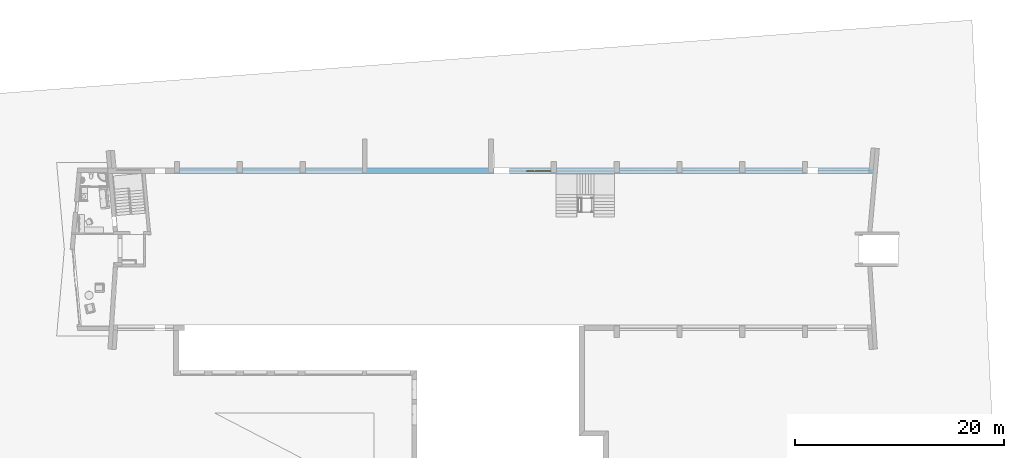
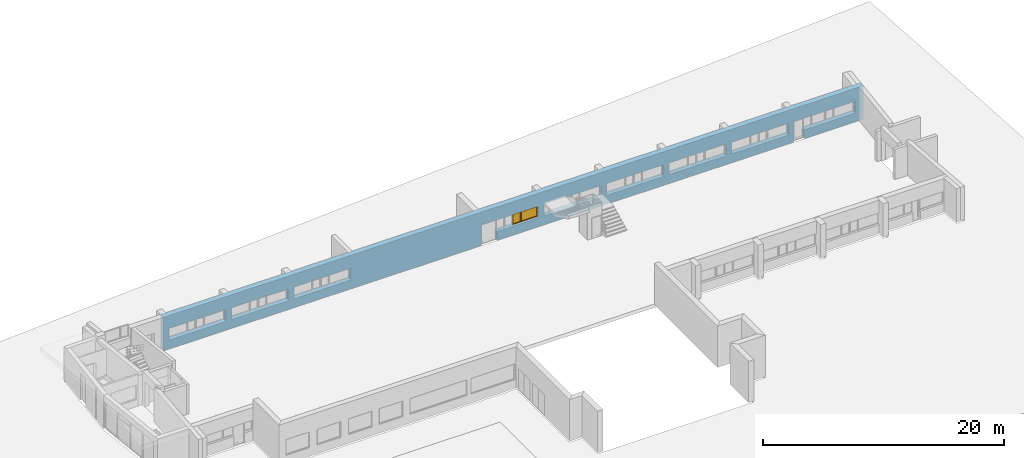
# One storey, part 19 of 36: 1 window, 20 openings, plus 1 element that does not belong to this part.
"""IFC2X3 building model written with IfcOpenShell, lengths in millimetres."""

from ifc_helpers import new_model, entity, si_unit, converted_unit, money_unit, direction, frame, origin_with_axes, place, context, subcontext, project, spatial, polyline, outline, extrude, open_shell, faceted_brep, surface_model, material, material_list, layer, layer_set, layer_usage, type_object, element, fill, save


model = new_model("IFC2X3")

# Units and contexts
model_context = context("Model", 3, precision=1e-05, world=origin_with_axes(), true_north=direction((0.0, 1.0)))
body_context = subcontext(model_context, "Body", "Model", "MODEL_VIEW")
ifc_project = project(units=[si_unit("LENGTHUNIT", "METRE", prefix="MILLI"), si_unit("AREAUNIT", "SQUARE_METRE"), si_unit("VOLUMEUNIT", "CUBIC_METRE"), converted_unit("PLANEANGLEUNIT", "DEGREE", entity("IfcPlaneAngleMeasure", 0.0174532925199), si_unit("PLANEANGLEUNIT", "RADIAN"), dimensions=[0, 0, 0, 0, 0, 0, 0]), si_unit("SOLIDANGLEUNIT", "STERADIAN"), money_unit("USD"), converted_unit("TIMEUNIT", "Year", entity("IfcTimeMeasure", 31556926.0), si_unit("TIMEUNIT", "SECOND"), dimensions=[0, 0, 0, 0, 0, 0, 0]), si_unit("MASSUNIT", "GRAM"), si_unit("THERMODYNAMICTEMPERATUREUNIT", "DEGREE_CELSIUS"), si_unit("LUMINOUSINTENSITYUNIT", "LUMEN")], contexts=[model_context])

# Site, building, storey
site_placement = place(None, origin_with_axes())
site = spatial("IfcSite", under=ifc_project, at=site_placement, Name="Site", CompositionType="ELEMENT")
building_placement = place(site_placement, origin_with_axes())
building = spatial("IfcBuilding", under=site, at=building_placement, Name="Building", CompositionType="ELEMENT")
storey_placement = place(building_placement, frame((0.0, 0.0, -3400.0), z_axis=(0.0, 0.0, 1.0), x_axis=(1.0, 0.0, 0.0)))
storey = spatial("IfcBuildingStorey", under=building, at=storey_placement, Name="1KORRUS", CompositionType="ELEMENT", Elevation=-3400.0)

# Wall, openings, window
ifc_material_1 = material(Name="Olemasolevad seinad tellis, uus viimistlus")
ifc_layer = layer(ifc_material_1, 500.0, ventilated="UNKNOWN")
ifc_layer_set = layer_set([ifc_layer], Name="Olemasolevad seinad tellis, uus viimistlus 500")
ifc_layer_usage = layer_usage(ifc_layer_set, "AXIS2", "POSITIVE", -100.0)
wall_type = type_object("IfcWallType", Name="Olemasolevad seinad tellis, uus viimistlus 500", PredefinedType="NOTDEFINED")
wall_placement = place(storey_placement, frame((-48393.8274049, -5039.6041088, 0.0), z_axis=(0.0, 0.0, 1.0), x_axis=(1.0, 0.0, 0.0)))
wall = element("IfcWallStandardCase", 1, at=wall_placement, inside=storey, type_object=wall_type, material=ifc_layer_usage, Name="VS1", ObjectType="VS1", context=body_context, shape_type="SweptSolid", body=[
    extrude(outline(polyline([(0.0, -100.0), (67149.8194303, -100.0), (67149.8194303, 400.0), (0.0, 400.0), (0.0, -100.0)])), origin_with_axes(), (0.0, 0.0, 1.0), 3400.0),
])
opening_1_placement = place(wall_placement, frame((1878.53070154, 0.0, 900.0), z_axis=(0.0, 0.0, 1.0), x_axis=(1.0, 0.0, 0.0)))
element("IfcOpeningElement", 2, at=opening_1_placement, cuts=wall, Name="Olemasolevad aknad jäävad", context=body_context, shape_type="SweptSolid", body=[
    extrude(outline(polyline([(-1375.0, 1200.0), (-1375.0, 0.0), (1375.0, 0.0), (1375.0, 1200.0), (-1375.0, 1200.0)])), frame((0.0, 250.0, 0.0), z_axis=(0.0, -1.0, 0.0), x_axis=(1.0, 0.0, 0.0)), (0.0, 0.0, 1.0), 850.0),
    extrude(outline(polyline([(-1375.0, 0.0), (-1375.0, -1200.0), (1375.0, -1200.0), (1375.0, 0.0), (-1375.0, 0.0)])), frame((0.0, 250.0, 0.0), z_axis=(0.0, 1.0, 0.0), x_axis=(1.0, 0.0, 0.0)), (0.0, 0.0, 1.0), 650.0),
])
opening_2_placement = place(wall_placement, frame((7878.53070154, 0.0, 900.0), z_axis=(0.0, 0.0, 1.0), x_axis=(1.0, 0.0, 0.0)))
element("IfcOpeningElement", 3, at=opening_2_placement, cuts=wall, Name="Olemasolevad aknad jäävad", context=body_context, shape_type="SweptSolid", body=[
    extrude(outline(polyline([(-1375.0, 1200.0), (-1375.0, 0.0), (1375.0, 0.0), (1375.0, 1200.0), (-1375.0, 1200.0)])), frame((0.0, 250.0, 0.0), z_axis=(0.0, -1.0, 0.0), x_axis=(1.0, 0.0, 0.0)), (0.0, 0.0, 1.0), 850.0),
    extrude(outline(polyline([(-1375.0, 0.0), (-1375.0, -1200.0), (1375.0, -1200.0), (1375.0, 0.0), (-1375.0, 0.0)])), frame((0.0, 250.0, 0.0), z_axis=(0.0, 1.0, 0.0), x_axis=(1.0, 0.0, 0.0)), (0.0, 0.0, 1.0), 650.0),
])
opening_3_placement = place(wall_placement, frame((13878.5307015, 0.0, 900.0), z_axis=(0.0, 0.0, 1.0), x_axis=(1.0, 0.0, 0.0)))
element("IfcOpeningElement", 4, at=opening_3_placement, cuts=wall, Name="Olemasolevad aknad jäävad", context=body_context, shape_type="SweptSolid", body=[
    extrude(outline(polyline([(-1375.0, 1200.0), (-1375.0, 0.0), (1375.0, 0.0), (1375.0, 1200.0), (-1375.0, 1200.0)])), frame((0.0, 250.0, 0.0), z_axis=(0.0, -1.0, 0.0), x_axis=(1.0, 0.0, 0.0)), (0.0, 0.0, 1.0), 850.0),
    extrude(outline(polyline([(-1375.0, 0.0), (-1375.0, -1200.0), (1375.0, -1200.0), (1375.0, 0.0), (-1375.0, 0.0)])), frame((0.0, 250.0, 0.0), z_axis=(0.0, 1.0, 0.0), x_axis=(1.0, 0.0, 0.0)), (0.0, 0.0, 1.0), 650.0),
])
opening_4_placement = place(wall_placement, frame((4628.53070154, 0.0, 900.0), z_axis=(0.0, 0.0, 1.0), x_axis=(1.0, 0.0, 0.0)))
element("IfcOpeningElement", 5, at=opening_4_placement, cuts=wall, Name="Olemasolevad aknad jäävad", context=body_context, shape_type="SweptSolid", body=[
    extrude(outline(polyline([(1375.0, 1200.0), (-1375.0, 1200.0), (-1375.0, 0.0), (1375.0, 0.0), (1375.0, 1200.0)])), frame((0.0, 250.0, 0.0), z_axis=(0.0, -1.0, 0.0), x_axis=(1.0, 0.0, 0.0)), (0.0, 0.0, 1.0), 850.0),
    extrude(outline(polyline([(1375.0, 0.0), (-1375.0, 0.0), (-1375.0, -1200.0), (1375.0, -1200.0), (1375.0, 0.0)])), frame((0.0, 250.0, 0.0), z_axis=(0.0, 1.0, 0.0), x_axis=(1.0, 0.0, 0.0)), (0.0, 0.0, 1.0), 650.0),
])
opening_5_placement = place(wall_placement, frame((10628.5307015, 0.0, 900.0), z_axis=(0.0, 0.0, 1.0), x_axis=(1.0, 0.0, 0.0)))
element("IfcOpeningElement", 6, at=opening_5_placement, cuts=wall, Name="Olemasolevad aknad jäävad", context=body_context, shape_type="SweptSolid", body=[
    extrude(outline(polyline([(1375.0, 1200.0), (-1375.0, 1200.0), (-1375.0, 0.0), (1375.0, 0.0), (1375.0, 1200.0)])), frame((0.0, 250.0, 0.0), z_axis=(0.0, -1.0, 0.0), x_axis=(1.0, 0.0, 0.0)), (0.0, 0.0, 1.0), 850.0),
    extrude(outline(polyline([(1375.0, 0.0), (-1375.0, 0.0), (-1375.0, -1200.0), (1375.0, -1200.0), (1375.0, 0.0)])), frame((0.0, 250.0, 0.0), z_axis=(0.0, 1.0, 0.0), x_axis=(1.0, 0.0, 0.0)), (0.0, 0.0, 1.0), 650.0),
])
opening_6_placement = place(wall_placement, frame((16616.9651775, 0.0, 900.0), z_axis=(0.0, 0.0, 1.0), x_axis=(1.0, 0.0, 0.0)))
element("IfcOpeningElement", 7, at=opening_6_placement, cuts=wall, Name="Olemasolevad aknad jäävad", context=body_context, shape_type="SweptSolid", body=[
    extrude(outline(polyline([(1375.0, 1200.0), (-1375.0, 1200.0), (-1375.0, 0.0), (1375.0, 0.0), (1375.0, 1200.0)])), frame((0.0, 250.0, 0.0), z_axis=(0.0, -1.0, 0.0), x_axis=(1.0, 0.0, 0.0)), (0.0, 0.0, 1.0), 850.0),
    extrude(outline(polyline([(1375.0, 0.0), (-1375.0, 0.0), (-1375.0, -1200.0), (1375.0, -1200.0), (1375.0, 0.0)])), frame((0.0, 250.0, 0.0), z_axis=(0.0, 1.0, 0.0), x_axis=(1.0, 0.0, 0.0)), (0.0, 0.0, 1.0), 650.0),
])
opening_7_placement = place(wall_placement, frame((34803.5307015, 0.0, 900.0), z_axis=(0.0, 0.0, 1.0), x_axis=(1.0, 0.0, 0.0)))
opening_7 = element("IfcOpeningElement", 8, at=opening_7_placement, cuts=wall, Name="Olemasolevad aknad jäävad", context=body_context, shape_type="SweptSolid", body=[
    extrude(outline(polyline([(1200.0, 0.0), (-1200.0, 0.0), (-1200.0, -1200.0), (1200.0, -1200.0), (1200.0, 0.0)])), frame((0.0, 100.0, 0.0), z_axis=(0.0, 1.0, 0.0), x_axis=(1.0, 0.0, 0.0)), (0.0, 0.0, 1.0), 800.0),
    extrude(outline(polyline([(1200.0, 1200.0), (-1200.0, 1200.0), (-1200.0, 0.0), (1200.0, 0.0), (1200.0, 1200.0)])), frame((0.0, 100.0, 0.0), z_axis=(0.0, -1.0, 0.0), x_axis=(1.0, 0.0, 0.0)), (0.0, 0.0, 1.0), 700.0),
])
opening_8_placement = place(wall_placement, frame((40625.1633636, 0.0, 900.0), z_axis=(0.0, 0.0, 1.0), x_axis=(1.0, 0.0, 0.0)))
element("IfcOpeningElement", 9, at=opening_8_placement, cuts=wall, Name="Olemasolevad aknad jäävad", context=body_context, shape_type="SweptSolid", body=[
    extrude(outline(polyline([(1400.0, 0.0), (-1400.0, 0.0), (-1400.0, -1200.0), (1400.0, -1200.0), (1400.0, 0.0)])), frame((0.0, 100.0, 0.0), z_axis=(0.0, 1.0, 0.0), x_axis=(1.0, 0.0, 0.0)), (0.0, 0.0, 1.0), 800.0),
    extrude(outline(polyline([(1400.0, 1200.0), (-1400.0, 1200.0), (-1400.0, 0.0), (1400.0, 0.0), (1400.0, 1200.0)])), frame((0.0, 100.0, 0.0), z_axis=(0.0, -1.0, 0.0), x_axis=(1.0, 0.0, 0.0)), (0.0, 0.0, 1.0), 700.0),
])
opening_9_placement = place(wall_placement, frame((37871.3218818, 0.0, 900.0), z_axis=(0.0, 0.0, 1.0), x_axis=(1.0, 0.0, 0.0)))
element("IfcOpeningElement", 10, at=opening_9_placement, cuts=wall, Name="Olemasolevad aknad jäävad", context=body_context, shape_type="SweptSolid", body=[
    extrude(outline(polyline([(-1367.791, 0.0), (-1367.791, -1200.0), (1367.791, -1200.0), (1367.791, 0.0), (-1367.791, 0.0)])), frame((0.0, 150.0, 0.0), z_axis=(0.0, 1.0, 0.0), x_axis=(1.0, 0.0, 0.0)), (0.0, 0.0, 1.0), 750.0),
    extrude(outline(polyline([(-1367.791, 1200.0), (-1367.791, 0.0), (1367.791, 0.0), (1367.791, 1200.0), (-1367.791, 1200.0)])), frame((0.0, 150.0, 0.0), z_axis=(0.0, -1.0, 0.0), x_axis=(1.0, 0.0, 0.0)), (0.0, 0.0, 1.0), 750.0),
])
opening_10_placement = place(wall_placement, frame((46628.5307015, 0.0, 900.0), z_axis=(0.0, 0.0, 1.0), x_axis=(1.0, 0.0, 0.0)))
element("IfcOpeningElement", 11, at=opening_10_placement, cuts=wall, Name="Olemasolevad aknad jäävad", context=body_context, shape_type="SweptSolid", body=[
    extrude(outline(polyline([(1375.0, 1200.0), (-1375.0, 1200.0), (-1375.0, 0.0), (1375.0, 0.0), (1375.0, 1200.0)])), frame((0.0, 150.0, 0.0), z_axis=(0.0, -1.0, 0.0), x_axis=(1.0, 0.0, 0.0)), (0.0, 0.0, 1.0), 750.0),
    extrude(outline(polyline([(1375.0, 0.0), (-1375.0, 0.0), (-1375.0, -1200.0), (1375.0, -1200.0), (1375.0, 0.0)])), frame((0.0, 150.0, 0.0), z_axis=(0.0, 1.0, 0.0), x_axis=(1.0, 0.0, 0.0)), (0.0, 0.0, 1.0), 750.0),
])
opening_11_placement = place(wall_placement, frame((43878.5307015, 0.0, 900.0), z_axis=(0.0, 0.0, 1.0), x_axis=(1.0, 0.0, 0.0)))
element("IfcOpeningElement", 12, at=opening_11_placement, cuts=wall, Name="Olemasolevad aknad jäävad", context=body_context, shape_type="SweptSolid", body=[
    extrude(outline(polyline([(-1375.0, 1200.0), (-1375.0, 0.0), (1375.0, 0.0), (1375.0, 1200.0), (-1375.0, 1200.0)])), frame((0.0, 200.0, 0.0), z_axis=(0.0, -1.0, 0.0), x_axis=(1.0, 0.0, 0.0)), (0.0, 0.0, 1.0), 800.0),
    extrude(outline(polyline([(-1375.0, 0.0), (-1375.0, -1200.0), (1375.0, -1200.0), (1375.0, 0.0), (-1375.0, 0.0)])), frame((0.0, 200.0, 0.0), z_axis=(0.0, 1.0, 0.0), x_axis=(1.0, 0.0, 0.0)), (0.0, 0.0, 1.0), 700.0),
])
opening_12_placement = place(wall_placement, frame((52635.3834465, 0.0, 900.0), z_axis=(0.0, 0.0, 1.0), x_axis=(1.0, 0.0, 0.0)))
element("IfcOpeningElement", 13, at=opening_12_placement, cuts=wall, Name="Olemasolevad aknad jäävad", context=body_context, shape_type="SweptSolid", body=[
    extrude(outline(polyline([(1376.809, 1200.0), (-1376.809, 1200.0), (-1376.809, 0.0), (1376.809, 0.0), (1376.809, 1200.0)])), frame((0.0, 150.0, 0.0), z_axis=(0.0, -1.0, 0.0), x_axis=(1.0, 0.0, 0.0)), (0.0, 0.0, 1.0), 750.0),
    extrude(outline(polyline([(1376.809, 0.0), (-1376.809, 0.0), (-1376.809, -1200.0), (1376.809, -1200.0), (1376.809, 0.0)])), frame((0.0, 150.0, 0.0), z_axis=(0.0, 1.0, 0.0), x_axis=(1.0, 0.0, 0.0)), (0.0, 0.0, 1.0), 750.0),
])
opening_13_placement = place(wall_placement, frame((49883.9987013, 0.0, 900.0), z_axis=(0.0, 0.0, 1.0), x_axis=(1.0, 0.0, 0.0)))
element("IfcOpeningElement", 14, at=opening_13_placement, cuts=wall, Name="Olemasolevad aknad jäävad", context=body_context, shape_type="SweptSolid", body=[
    extrude(outline(polyline([(-1375.0, 1200.0), (-1375.0, 0.0), (1375.0, 0.0), (1375.0, 1200.0), (-1375.0, 1200.0)])), frame((0.0, 200.0, 0.0), z_axis=(0.0, -1.0, 0.0), x_axis=(1.0, 0.0, 0.0)), (0.0, 0.0, 1.0), 800.0),
    extrude(outline(polyline([(-1375.0, 0.0), (-1375.0, -1200.0), (1375.0, -1200.0), (1375.0, 0.0), (-1375.0, 0.0)])), frame((0.0, 200.0, 0.0), z_axis=(0.0, 1.0, 0.0), x_axis=(1.0, 0.0, 0.0)), (0.0, 0.0, 1.0), 700.0),
])
opening_14_placement = place(wall_placement, frame((58631.8843372, 0.0, 900.0), z_axis=(0.0, 0.0, 1.0), x_axis=(1.0, 0.0, 0.0)))
element("IfcOpeningElement", 15, at=opening_14_placement, cuts=wall, Name="Olemasolevad aknad jäävad", context=body_context, shape_type="SweptSolid", body=[
    extrude(outline(polyline([(1371.646, 1200.0), (-1371.646, 1200.0), (-1371.646, 0.0), (1371.646, 0.0), (1371.646, 1200.0)])), frame((0.0, 150.0, 0.0), z_axis=(0.0, -1.0, 0.0), x_axis=(1.0, 0.0, 0.0)), (0.0, 0.0, 1.0), 750.0),
    extrude(outline(polyline([(1371.646, 0.0), (-1371.646, 0.0), (-1371.646, -1200.0), (1371.646, -1200.0), (1371.646, 0.0)])), frame((0.0, 150.0, 0.0), z_axis=(0.0, 1.0, 0.0), x_axis=(1.0, 0.0, 0.0)), (0.0, 0.0, 1.0), 750.0),
])
opening_15_placement = place(wall_placement, frame((55886.6217615, 0.0, 900.0), z_axis=(0.0, 0.0, 1.0), x_axis=(1.0, 0.0, 0.0)))
element("IfcOpeningElement", 16, at=opening_15_placement, cuts=wall, Name="Olemasolevad aknad jäävad", context=body_context, shape_type="SweptSolid", body=[
    extrude(outline(polyline([(-1375.0, 1200.0), (-1375.0, 0.0), (1375.0, 0.0), (1375.0, 1200.0), (-1375.0, 1200.0)])), frame((0.0, 200.0, 0.0), z_axis=(0.0, -1.0, 0.0), x_axis=(1.0, 0.0, 0.0)), (0.0, 0.0, 1.0), 800.0),
    extrude(outline(polyline([(-1375.0, 0.0), (-1375.0, -1200.0), (1375.0, -1200.0), (1375.0, 0.0), (-1375.0, 0.0)])), frame((0.0, 200.0, 0.0), z_axis=(0.0, 1.0, 0.0), x_axis=(1.0, 0.0, 0.0)), (0.0, 0.0, 1.0), 700.0),
])
opening_16_placement = place(wall_placement, frame((64995.2517085, 0.0, 900.0), z_axis=(0.0, 0.0, 1.0), x_axis=(1.0, 0.0, 0.0)))
element("IfcOpeningElement", 17, at=opening_16_placement, cuts=wall, Name="Olemasolevad aknad jäävad", context=body_context, shape_type="SweptSolid", body=[
    extrude(outline(polyline([(1375.0, 1200.0), (-1375.0, 1200.0), (-1375.0, 0.0), (1375.0, 0.0), (1375.0, 1200.0)])), frame((0.0, 150.0, 0.0), z_axis=(0.0, -1.0, 0.0), x_axis=(1.0, 0.0, 0.0)), (0.0, 0.0, 1.0), 750.0),
    extrude(outline(polyline([(1375.0, 0.0), (-1375.0, 0.0), (-1375.0, -1200.0), (1375.0, -1200.0), (1375.0, 0.0)])), frame((0.0, 150.0, 0.0), z_axis=(0.0, 1.0, 0.0), x_axis=(1.0, 0.0, 0.0)), (0.0, 0.0, 1.0), 750.0),
])
opening_17_placement = place(wall_placement, frame((32810.8244307, 0.0, 900.0), z_axis=(0.0, 0.0, 1.0), x_axis=(1.0, 0.0, 0.0)))
element("IfcOpeningElement", 18, at=opening_17_placement, cuts=wall, Name="Olemasolevad aknad jäävad", context=body_context, shape_type="SweptSolid", body=[
    extrude(outline(polyline([(792.706, 0.0), (-792.706, 0.0), (-792.706, -1200.0), (792.706, -1200.0), (792.706, 0.0)])), frame((0.0, 100.0, 0.0), z_axis=(0.0, 1.0, 0.0), x_axis=(1.0, 0.0, 0.0)), (0.0, 0.0, 1.0), 800.0),
    extrude(outline(polyline([(792.706, 1200.0), (-792.706, 1200.0), (-792.706, 0.0), (792.706, 0.0), (792.706, 1200.0)])), frame((0.0, 100.0, 0.0), z_axis=(0.0, -1.0, 0.0), x_axis=(1.0, 0.0, 0.0)), (0.0, 0.0, 1.0), 700.0),
])
opening_18_placement = place(wall_placement, frame((62561.891205, 0.0, 900.0), z_axis=(0.0, 0.0, 1.0), x_axis=(1.0, 0.0, 0.0)))
element("IfcOpeningElement", 19, at=opening_18_placement, cuts=wall, Name="Olemasolevad aknad jäävad", context=body_context, shape_type="SweptSolid", body=[
    extrude(outline(polyline([(1058.361, 1200.0), (-1058.361, 1200.0), (-1058.361, 0.0), (1058.361, 0.0), (1058.361, 1200.0)])), frame((0.0, 150.0, 0.0), z_axis=(0.0, -1.0, 0.0), x_axis=(1.0, 0.0, 0.0)), (0.0, 0.0, 1.0), 750.0),
    extrude(outline(polyline([(1058.361, 0.0), (-1058.361, 0.0), (-1058.361, -1200.0), (1058.361, -1200.0), (1058.361, 0.0)])), frame((0.0, 150.0, 0.0), z_axis=(0.0, 1.0, 0.0), x_axis=(1.0, 0.0, 0.0)), (0.0, 0.0, 1.0), 750.0),
])
opening_19_placement = place(wall_placement, frame((61003.5307015, 0.0, -4.66441168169), z_axis=(0.0, 0.0, 1.0), x_axis=(1.0, 0.0, 0.0)))
element("IfcOpeningElement", 20, at=opening_19_placement, cuts=wall, Name="ava", context=body_context, shape_type="SweptSolid", body=[
    extrude(outline(polyline([(-500.0, 2100.0), (-500.0, 0.0), (500.0, 0.0), (500.0, 2100.0), (-500.0, 2100.0)])), frame((0.0, 200.0, 0.0), z_axis=(0.0, 1.0, 0.0), x_axis=(-1.0, 0.0, 0.0)), (0.0, 0.0, -1.0), 800.0),
    extrude(outline(polyline([(-500.0, 0.0), (-500.0, -2100.0), (500.0, -2100.0), (500.0, 0.0), (-500.0, 0.0)])), frame((0.0, 200.0, 0.0), z_axis=(0.0, -1.0, 0.0), x_axis=(-1.0, 0.0, 0.0)), (0.0, 0.0, -1.0), 700.0),
])
opening_20_placement = place(wall_placement, frame((31268.1181599, 0.0, 0.0), z_axis=(0.0, 0.0, 1.0), x_axis=(1.0, 0.0, 0.0)))
element("IfcOpeningElement", 21, at=opening_20_placement, cuts=wall, Name="ava", context=body_context, shape_type="SweptSolid", body=[
    extrude(outline(polyline([(-750.0, 2100.0), (-750.0, 0.0), (750.0, 0.0), (750.0, 2100.0), (-750.0, 2100.0)])), frame((0.0, 200.0, 0.0), z_axis=(0.0, -1.0, 0.0), x_axis=(1.0, 0.0, 0.0)), (0.0, 0.0, 1.0), 800.0),
    extrude(outline(polyline([(-750.0, 0.0), (-750.0, -2100.0), (750.0, -2100.0), (750.0, 0.0), (-750.0, 0.0)])), frame((0.0, 200.0, 0.0), z_axis=(0.0, 1.0, 0.0), x_axis=(1.0, 0.0, 0.0)), (0.0, 0.0, 1.0), 700.0),
])
ifc_material_2 = material(Name="Background")
ifc_material_list = material_list([ifc_material_2])
window_style = type_object("IfcWindowStyle", Name="Double Window 19", ConstructionType="NOTDEFINED", OperationType="DOUBLE_PANEL_VERTICAL", ParameterTakesPrecedence=False, Sizeable=False)
window_placement = place(opening_7_placement, frame((-1200.0, 0.0, 0.0), z_axis=(0.0, 0.0, 1.0), x_axis=(1.0, 0.0, 0.0)))
window = element("IfcWindow", 22, at=window_placement, inside=storey, type_object=window_style, material=ifc_material_list, Name="Olemasolevad aknad jäävad", ObjectType="Olemasolevad aknad jäävad", OverallHeight=1200.0, OverallWidth=2400.0, context=body_context, shape_type="SurfaceModel", body=[
    faceted_brep([(2375.0, 150.0, 1150.0), (2375.0, 125.0, 1150.0), (2350.0, 125.0, 1150.0), (2350.0, 100.0, 1150.0), (2400.0, 100.0, 1150.0), (2400.0, 150.0, 1150.0), (2375.0, 150.0, 50.0), (2375.0, 125.0, 50.0), (2350.0, 125.0, 50.0), (2350.0, 100.0, 50.0), (2400.0, 100.0, 50.0), (2400.0, 150.0, 50.0)], [[[0, 1, 2, 3, 4, 5]], [[1, 0, 6, 7]], [[8, 2, 1, 7]], [[2, 8, 9, 3]], [[4, 3, 9, 10]], [[5, 4, 10, 11]], [[6, 0, 5, 11]], [[7, 6, 11, 10, 9, 8]]]),
    faceted_brep([(50.0, 125.0, 1150.0), (25.0, 125.0, 1150.0), (25.0, 150.0, 1150.0), (0.0, 150.0, 1150.0), (0.0, 100.0, 1150.0), (50.0, 100.0, 1150.0), (50.0, 125.0, 50.0), (25.0, 125.0, 50.0), (25.0, 150.0, 50.0), (0.0, 150.0, 50.0), (0.0, 100.0, 50.0), (50.0, 100.0, 50.0)], [[[0, 1, 2, 3, 4, 5]], [[1, 0, 6, 7]], [[8, 2, 1, 7]], [[2, 8, 9, 3]], [[9, 10, 4, 3]], [[10, 11, 5, 4]], [[6, 0, 5, 11]], [[7, 6, 11, 10, 9, 8]]]),
    faceted_brep([(850.0, 125.0, 1150.0), (825.0, 125.0, 1150.0), (825.0, 150.0, 1150.0), (775.0, 150.0, 1150.0), (775.0, 125.0, 1150.0), (750.0, 125.0, 1150.0), (750.0, 100.0, 1150.0), (850.0, 100.0, 1150.0), (850.0, 125.0, 50.0), (825.0, 125.0, 50.0), (825.0, 150.0, 50.0), (775.0, 150.0, 50.0), (775.0, 125.0, 50.0), (750.0, 125.0, 50.0), (750.0, 100.0, 50.0), (850.0, 100.0, 50.0)], [[[0, 1, 2, 3, 4, 5, 6, 7]], [[1, 0, 8, 9]], [[10, 2, 1, 9]], [[2, 10, 11, 3]], [[4, 3, 11, 12]], [[13, 5, 4, 12]], [[5, 13, 14, 6]], [[14, 15, 7, 6]], [[8, 0, 7, 15]], [[9, 8, 15, 14, 13, 12, 11, 10]]]),
    faceted_brep([(850.0, 125.0, 50.0), (825.0, 125.0, 50.0), (825.0, 150.0, 50.0), (775.0, 150.0, 50.0), (775.0, 125.0, 50.0), (750.0, 125.0, 50.0), (750.0, 100.0, 50.0), (850.0, 100.0, 50.0), (2350.0, 125.0, 50.0), (2375.0, 125.0, 50.0), (2375.0, 125.0, 25.0), (825.0, 125.0, 25.0), (825.0, 150.0, 25.0), (2375.0, 150.0, 25.0), (2375.0, 150.0, 50.0), (2400.0, 150.0, 50.0), (2400.0, 150.0, 0.0), (0.0, 150.0, 0.0), (0.0, 150.0, 50.0), (25.0, 150.0, 50.0), (25.0, 150.0, 25.0), (775.0, 150.0, 25.0), (775.0, 125.0, 25.0), (25.0, 125.0, 50.0), (50.0, 125.0, 50.0), (25.0, 125.0, 25.0), (50.0, 100.0, 50.0), (2400.0, 100.0, 50.0), (2350.0, 100.0, 50.0), (0.0, 100.0, 50.0), (0.0, 100.0, 0.0), (2400.0, 100.0, 0.0)], [[[0, 1, 2, 3, 4, 5, 6, 7]], [[1, 0, 8, 9, 10, 11]], [[12, 2, 1, 11]], [[13, 14, 15, 16, 17, 18, 19, 20, 21, 3, 2, 12]], [[4, 3, 21, 22]], [[23, 24, 5, 4, 22, 25]], [[5, 24, 26, 6]], [[27, 28, 7, 6, 26, 29, 30, 31]], [[8, 0, 7, 28]], [[9, 8, 28, 27, 15, 14]], [[9, 14, 13, 10]], [[13, 12, 11, 10]], [[15, 27, 31, 16]], [[16, 31, 30, 17]], [[17, 30, 29, 18]], [[24, 23, 19, 18, 29, 26]], [[20, 19, 23, 25]], [[21, 20, 25, 22]]]),
    faceted_brep([(2375.0, 150.0, 1150.0), (2375.0, 150.0, 1175.0), (825.0, 150.0, 1175.0), (825.0, 150.0, 1150.0), (775.0, 150.0, 1150.0), (775.0, 150.0, 1175.0), (25.0, 150.0, 1175.0), (25.0, 150.0, 1150.0), (0.0, 150.0, 1150.0), (0.0, 150.0, 1200.0), (2400.0, 150.0, 1200.0), (2400.0, 150.0, 1150.0), (2375.0, 125.0, 1150.0), (2375.0, 125.0, 1175.0), (825.0, 125.0, 1175.0), (825.0, 125.0, 1150.0), (850.0, 125.0, 1150.0), (850.0, 100.0, 1150.0), (750.0, 100.0, 1150.0), (750.0, 125.0, 1150.0), (775.0, 125.0, 1150.0), (775.0, 125.0, 1175.0), (25.0, 125.0, 1175.0), (25.0, 125.0, 1150.0), (50.0, 125.0, 1150.0), (50.0, 100.0, 1150.0), (0.0, 100.0, 1150.0), (0.0, 100.0, 1200.0), (2400.0, 100.0, 1200.0), (2400.0, 100.0, 1150.0), (2350.0, 100.0, 1150.0), (2350.0, 125.0, 1150.0)], [[[0, 1, 2, 3, 4, 5, 6, 7, 8, 9, 10, 11]], [[1, 0, 12, 13]], [[2, 1, 13, 14]], [[3, 2, 14, 15]], [[15, 16, 17, 18, 19, 20, 4, 3]], [[5, 4, 20, 21]], [[6, 5, 21, 22]], [[7, 6, 22, 23]], [[23, 24, 25, 26, 8, 7]], [[8, 26, 27, 9]], [[9, 27, 28, 10]], [[10, 28, 29, 11]], [[12, 0, 11, 29, 30, 31]], [[16, 15, 14, 13, 12, 31]], [[16, 31, 30, 17]], [[18, 17, 30, 29, 28, 27, 26, 25]], [[24, 19, 18, 25]], [[24, 23, 22, 21, 20, 19]]]),
    faceted_brep([(2325.0, 125.0, 1125.0), (2375.0, 125.0, 1125.0), (2375.0, 175.0, 1125.0), (2325.0, 175.0, 1125.0), (2325.0, 125.0, 75.0), (2375.0, 125.0, 75.0), (2375.0, 175.0, 75.0), (2325.0, 175.0, 75.0)], [[[0, 1, 2, 3]], [[0, 4, 5, 1]], [[1, 5, 6, 2]], [[3, 2, 6, 7]], [[4, 0, 3, 7]], [[5, 4, 7, 6]]]),
    faceted_brep([(875.0, 125.0, 75.0), (825.0, 125.0, 75.0), (825.0, 175.0, 75.0), (875.0, 175.0, 75.0), (875.0, 125.0, 1125.0), (825.0, 125.0, 1125.0), (825.0, 175.0, 1125.0), (875.0, 175.0, 1125.0)], [[[0, 1, 2, 3]], [[0, 4, 5, 1]], [[1, 5, 6, 2]], [[3, 2, 6, 7]], [[4, 0, 3, 7]], [[5, 4, 7, 6]]]),
    faceted_brep([(825.0, 125.0, 25.0), (825.0, 125.0, 75.0), (825.0, 175.0, 75.0), (825.0, 175.0, 25.0), (2375.0, 125.0, 25.0), (2375.0, 125.0, 75.0), (2325.0, 125.0, 75.0), (875.0, 125.0, 75.0), (875.0, 175.0, 75.0), (2325.0, 175.0, 75.0), (2375.0, 175.0, 75.0), (2375.0, 175.0, 25.0)], [[[0, 1, 2, 3]], [[0, 4, 5, 6, 7, 1]], [[1, 7, 8, 2]], [[3, 2, 8, 9, 10, 11]], [[4, 0, 3, 11]], [[5, 4, 11, 10]], [[6, 5, 10, 9]], [[7, 6, 9, 8]]]),
    faceted_brep([(2375.0, 125.0, 1175.0), (2375.0, 125.0, 1125.0), (2375.0, 175.0, 1125.0), (2375.0, 175.0, 1175.0), (825.0, 125.0, 1175.0), (825.0, 125.0, 1125.0), (875.0, 125.0, 1125.0), (2325.0, 125.0, 1125.0), (2325.0, 175.0, 1125.0), (875.0, 175.0, 1125.0), (825.0, 175.0, 1125.0), (825.0, 175.0, 1175.0)], [[[0, 1, 2, 3]], [[0, 4, 5, 6, 7, 1]], [[1, 7, 8, 2]], [[3, 2, 8, 9, 10, 11]], [[4, 0, 3, 11]], [[5, 4, 11, 10]], [[6, 5, 10, 9]], [[7, 6, 9, 8]]]),
    surface_model("IfcShellBasedSurfaceModel", [(2325.0, 140.0, 75.0), (2325.0, 140.0, 1125.0), (875.0, 140.0, 1125.0), (875.0, 140.0, 75.0)], [open_shell([[[0, 1, 2, 3]]])]),
    surface_model("IfcShellBasedSurfaceModel", [(2325.0, 160.0, 75.0), (875.0, 160.0, 75.0), (875.0, 160.0, 1125.0), (2325.0, 160.0, 1125.0)], [open_shell([[[0, 1, 2, 3]]])]),
    faceted_brep([(725.0, 125.0, 1125.0), (775.0, 125.0, 1125.0), (775.0, 175.0, 1125.0), (725.0, 175.0, 1125.0), (725.0, 125.0, 75.0), (775.0, 125.0, 75.0), (775.0, 175.0, 75.0), (725.0, 175.0, 75.0)], [[[0, 1, 2, 3]], [[0, 4, 5, 1]], [[1, 5, 6, 2]], [[3, 2, 6, 7]], [[4, 0, 3, 7]], [[5, 4, 7, 6]]]),
    faceted_brep([(75.0, 125.0, 75.0), (25.0, 125.0, 75.0), (25.0, 175.0, 75.0), (75.0, 175.0, 75.0), (75.0, 125.0, 1125.0), (25.0, 125.0, 1125.0), (25.0, 175.0, 1125.0), (75.0, 175.0, 1125.0)], [[[0, 1, 2, 3]], [[0, 4, 5, 1]], [[1, 5, 6, 2]], [[3, 2, 6, 7]], [[4, 0, 3, 7]], [[5, 4, 7, 6]]]),
    faceted_brep([(25.0, 125.0, 25.0), (25.0, 125.0, 75.0), (25.0, 175.0, 75.0), (25.0, 175.0, 25.0), (775.0, 125.0, 25.0), (775.0, 125.0, 75.0), (725.0, 125.0, 75.0), (75.0, 125.0, 75.0), (75.0, 175.0, 75.0), (725.0, 175.0, 75.0), (775.0, 175.0, 75.0), (775.0, 175.0, 25.0)], [[[0, 1, 2, 3]], [[0, 4, 5, 6, 7, 1]], [[1, 7, 8, 2]], [[3, 2, 8, 9, 10, 11]], [[4, 0, 3, 11]], [[5, 4, 11, 10]], [[6, 5, 10, 9]], [[7, 6, 9, 8]]]),
    faceted_brep([(775.0, 125.0, 1175.0), (775.0, 125.0, 1125.0), (775.0, 175.0, 1125.0), (775.0, 175.0, 1175.0), (25.0, 125.0, 1175.0), (25.0, 125.0, 1125.0), (75.0, 125.0, 1125.0), (725.0, 125.0, 1125.0), (725.0, 175.0, 1125.0), (75.0, 175.0, 1125.0), (25.0, 175.0, 1125.0), (25.0, 175.0, 1175.0)], [[[0, 1, 2, 3]], [[0, 4, 5, 6, 7, 1]], [[1, 7, 8, 2]], [[3, 2, 8, 9, 10, 11]], [[4, 0, 3, 11]], [[5, 4, 11, 10]], [[6, 5, 10, 9]], [[7, 6, 9, 8]]]),
    surface_model("IfcShellBasedSurfaceModel", [(725.0, 140.0, 75.0), (725.0, 140.0, 1125.0), (75.0, 140.0, 1125.0), (75.0, 140.0, 75.0)], [open_shell([[[0, 1, 2, 3]]])]),
    surface_model("IfcShellBasedSurfaceModel", [(725.0, 160.0, 75.0), (75.0, 160.0, 75.0), (75.0, 160.0, 1125.0), (725.0, 160.0, 1125.0)], [open_shell([[[0, 1, 2, 3]]])]),
])
fill(opening_7, window)

save(model, "model.ifc")
